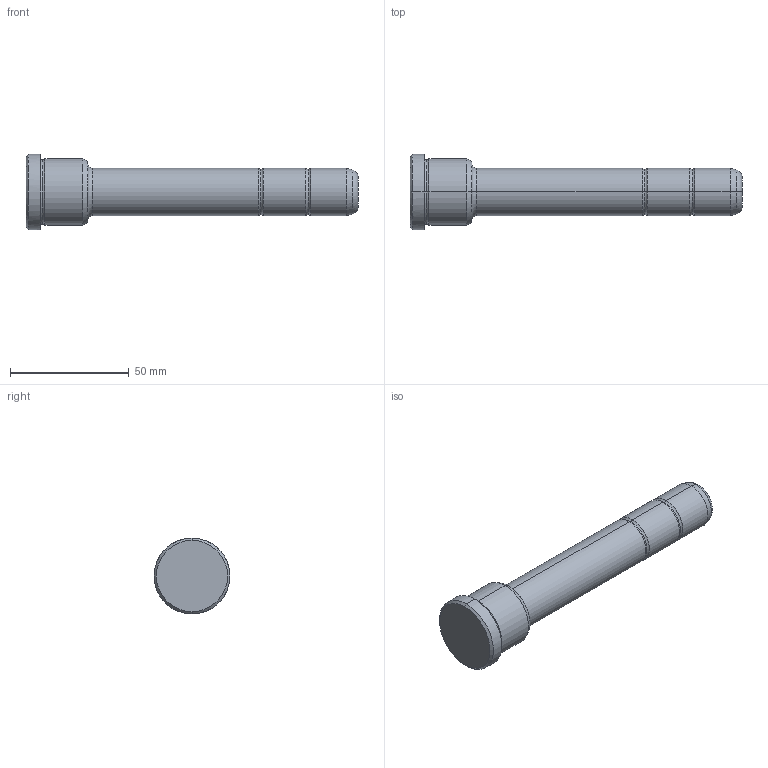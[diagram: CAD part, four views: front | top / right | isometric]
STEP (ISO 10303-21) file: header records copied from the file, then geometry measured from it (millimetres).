
FILE_DESCRIPTION(('CATIA V5 STEP Exchange'),'2;1');
FILE_NAME('C:\Users\Utente\Desktop\IO LAVORO\3D X SITO CF\X SITO\PLASTICA\351\351-20X26X140.stp','2021-08-27T12:29:20+00:00',('none'),('none'),'CATIA Version 5 Release 20 GA (IN-10)','CATIA V5 STEP AP203','none');
FILE_SCHEMA(('CONFIG_CONTROL_DESIGN'));
Length unit declared in the file: millimetre
Products named in the file (1): 351-20X26X140
Bounding box: 140 x 32 x 32 mm (x, y, z)
Volume: 52462.5 mm3; surface area: 10867.9 mm2
Topology: 1 solids, 1 shells, 36 faces, 102 edges, 70 vertices
Faces by surface type: torus 16, cylinder 10, cone 6, plane 4
Entity records: 1292 total; most frequent: CARTESIAN_POINT 321, ORIENTED_EDGE 204, DIRECTION 166, AXIS2_PLACEMENT_3D 115, EDGE_CURVE 102, CIRCLE 78, VERTEX_POINT 70, EDGE_LOOP 38
